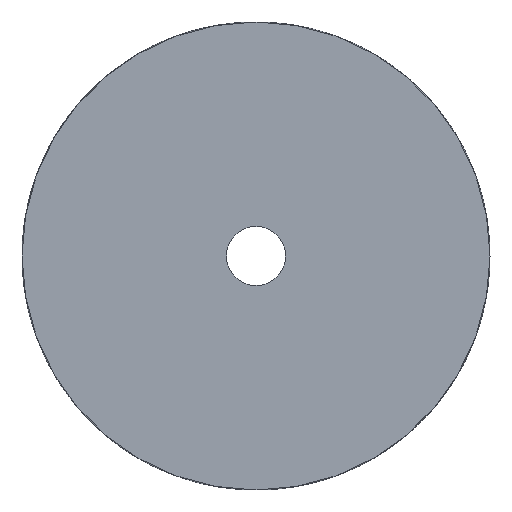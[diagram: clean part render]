
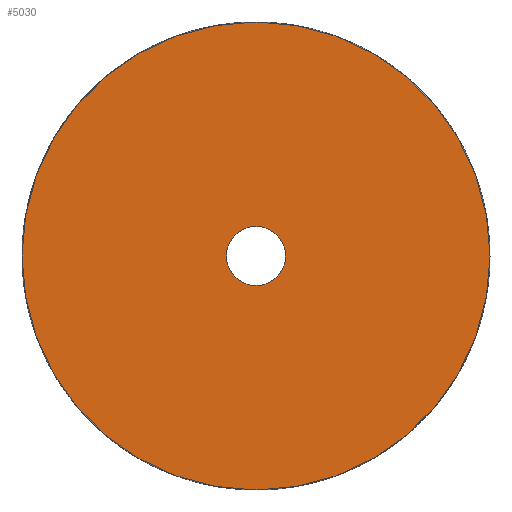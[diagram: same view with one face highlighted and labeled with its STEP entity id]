
A CAD part, front view. The second image highlights one B-rep face of the part: STEP entity #5030.
In plain terms, the highlighted planar face has unit normal (0, -1, 0).
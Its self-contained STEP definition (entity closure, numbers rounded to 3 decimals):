
#57=PLANE('',#5476);
#120=FACE_BOUND('',#771,.T.);
#418=FACE_OUTER_BOUND('',#770,.T.);
#770=EDGE_LOOP('',(#3797));
#771=EDGE_LOOP('',(#3798));
#999=CIRCLE('',#5404,25.);
#1012=CIRCLE('',#5477,3.15);
#1989=VERTEX_POINT('',#10039);
#1990=VERTEX_POINT('',#10270);
#2587=EDGE_CURVE('',#1989,#1989,#999,.T.);
#2637=EDGE_CURVE('',#1990,#1990,#1012,.T.);
#3797=ORIENTED_EDGE('',*,*,#2587,.F.);
#3798=ORIENTED_EDGE('',*,*,#2637,.T.);
#5030=ADVANCED_FACE('',(#418,#120),#57,.T.);
#5404=AXIS2_PLACEMENT_3D('',#10041,#6199,#6200);
#5476=AXIS2_PLACEMENT_3D('',#10269,#6358,#6359);
#5477=AXIS2_PLACEMENT_3D('',#10271,#6360,#6361);
#6199=DIRECTION('center_axis',(0.,1.,0.));
#6200=DIRECTION('ref_axis',(1.,0.,0.));
#6358=DIRECTION('center_axis',(0.,-1.,0.));
#6359=DIRECTION('ref_axis',(0.,0.,-1.));
#6360=DIRECTION('center_axis',(0.,1.,0.));
#6361=DIRECTION('ref_axis',(1.,0.,0.));
#10039=CARTESIAN_POINT('',(0.,-7.,-25.));
#10041=CARTESIAN_POINT('Origin',(0.,-7.,0.));
#10269=CARTESIAN_POINT('Origin',(0.,-7.,25.));
#10270=CARTESIAN_POINT('',(0.,-7.,-3.15));
#10271=CARTESIAN_POINT('Origin',(0.,-7.,0.));
